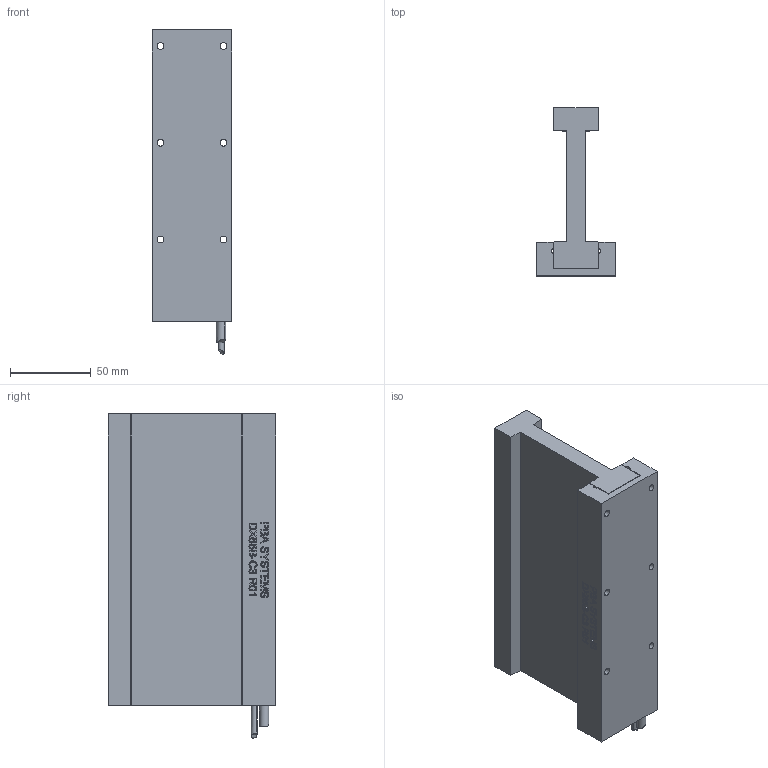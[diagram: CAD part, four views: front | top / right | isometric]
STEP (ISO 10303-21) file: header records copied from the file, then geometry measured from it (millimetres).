
FILE_DESCRIPTION (( 'STEP AP214' ), '1' );
FILE_NAME ('DX65B-C3-000.STEP', '2016-05-09T08:59:34', ( '' ), ( '' ), 'SwSTEP 2.0', 'SolidWorks 2015', '' );
FILE_SCHEMA (( 'AUTOMOTIVE_DESIGN' ));
Length unit declared in the file: millimetre
Products named in the file (5): CBL_MTR_HALL_SS_5C_SA (#2935-1); CBL_MTR_PWR_SS_7C2C_SA (#2936-1); DX65B-CX-002_C3; DX65B-C3-001_CUSTOMER C3; DX65B-C3-000
Assembly tree (4 placements, depth 2):
  DX65B-C3-000
    DX65B-C3-001_CUSTOMER C3
    DX65B-CX-002_C3
    CBL_MTR_PWR_SS_7C2C_SA (#2936-1)
    CBL_MTR_HALL_SS_5C_SA (#2935-1)
Bounding box: 49 x 104 x 201 mm (x, y, z)
Volume: 388789 mm3; surface area: 89812.9 mm2
Topology: 4 solids, 4 shells, 694 faces, 1869 edges, 1246 vertices
Faces by surface type: plane 366, bspline 306, cylinder 22
Entity records: 37675 total; most frequent: CARTESIAN_POINT 21922, ORIENTED_EDGE 3738, DIRECTION 2087, EDGE_CURVE 1869, VERTEX_POINT 1246, LINE 1217, VECTOR 1217, EDGE_LOOP 769
